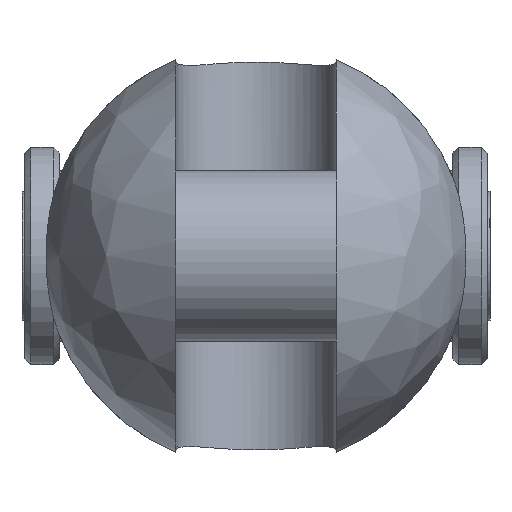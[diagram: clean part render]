
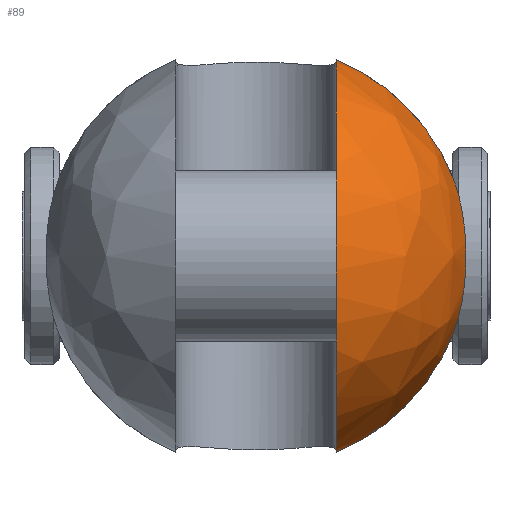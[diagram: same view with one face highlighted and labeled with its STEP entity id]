
A CAD part, left-side view. The second image highlights one B-rep face of the part: STEP entity #89.
In plain terms, the highlighted free-form (B-spline) face has degree [2, 2] with [9, 5] control points.
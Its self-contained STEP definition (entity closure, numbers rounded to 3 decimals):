
#89=ADVANCED_FACE('',(#164),#1306,.T.);
#164=FACE_OUTER_BOUND('',#249,.T.);
#249=EDGE_LOOP('',(#583,#584,#585,#586));
#583=ORIENTED_EDGE('',*,*,#811,.T.);
#584=ORIENTED_EDGE('',*,*,#833,.F.);
#585=ORIENTED_EDGE('',*,*,#851,.T.);
#586=ORIENTED_EDGE('',*,*,#827,.F.);
#811=EDGE_CURVE('',#1192,#1191,#1045,.T.);
#827=EDGE_CURVE('',#1192,#1204,#1055,.T.);
#833=EDGE_CURVE('',#1211,#1191,#1056,.T.);
#851=EDGE_CURVE('',#1211,#1204,#962,.T.);
#962=B_SPLINE_CURVE_WITH_KNOTS('',3,(#3095,#3096,#3097,#3098,#3099,#3100,
#3101,#3102,#3103,#3104,#3105,#3106,#3107,#3108),.UNSPECIFIED.,.F.,.F.,
(4,2,2,2,2,2,4),(-15.072,-13.761,-10.649,
-7.536,-4.423,-1.311,0.),.UNSPECIFIED.);
#1045=(
BOUNDED_CURVE()
B_SPLINE_CURVE(2,(#2912,#2913,#2914,#2915,#2916),.UNSPECIFIED.,.F.,.F.)
B_SPLINE_CURVE_WITH_KNOTS((3,2,3),(-53.798,-26.899,
0.),.UNSPECIFIED.)
CURVE()
GEOMETRIC_REPRESENTATION_ITEM()
RATIONAL_B_SPLINE_CURVE((1.,0.707,1.,0.707,1.))
REPRESENTATION_ITEM('')
);
#1055=(
BOUNDED_CURVE()
B_SPLINE_CURVE(2,(#2990,#2991,#2992),.UNSPECIFIED.,.F.,.F.)
B_SPLINE_CURVE_WITH_KNOTS((3,3),(0.,14.917),.UNSPECIFIED.)
CURVE()
GEOMETRIC_REPRESENTATION_ITEM()
RATIONAL_B_SPLINE_CURVE((1.,0.92,1.))
REPRESENTATION_ITEM('')
);
#1056=(
BOUNDED_CURVE()
B_SPLINE_CURVE(2,(#3015,#3016,#3017),.UNSPECIFIED.,.F.,.F.)
B_SPLINE_CURVE_WITH_KNOTS((3,3),(0.,14.917),.UNSPECIFIED.)
CURVE()
GEOMETRIC_REPRESENTATION_ITEM()
RATIONAL_B_SPLINE_CURVE((1.,0.92,1.))
REPRESENTATION_ITEM('')
);
#1191=VERTEX_POINT('',#2837);
#1192=VERTEX_POINT('',#2838);
#1204=VERTEX_POINT('',#2850);
#1211=VERTEX_POINT('',#2857);
#1306=(
BOUNDED_SURFACE()
B_SPLINE_SURFACE(2,2,((#2445,#2446,#2447,#2448,#2449),(#2450,#2451,#2452,
#2453,#2454),(#2455,#2456,#2457,#2458,#2459),(#2460,#2461,#2462,#2463,#2464),
(#2465,#2466,#2467,#2468,#2469),(#2470,#2471,#2472,#2473,#2474),(#2475,
#2476,#2477,#2478,#2479),(#2480,#2481,#2482,#2483,#2484),(#2485,#2486,#2487,
#2488,#2489)),.UNSPECIFIED.,.T.,.F.,.F.)
B_SPLINE_SURFACE_WITH_KNOTS((3,2,2,2,3),(3,2,3),(0.,1.571,3.142,
4.712,6.283),(-1.571,0.,1.571),
 .UNSPECIFIED.)
GEOMETRIC_REPRESENTATION_ITEM()
RATIONAL_B_SPLINE_SURFACE(((1.,0.707,1.,0.707,1.),
(0.707,0.5,0.707,0.5,0.707),(1.,0.707,
1.,0.707,1.),(0.707,0.5,0.707,0.5,0.707),
(1.,0.707,1.,0.707,1.),(0.707,0.5,0.707,
0.5,0.707),(1.,0.707,1.,0.707,1.),(0.707,
0.5,0.707,0.5,0.707),(1.,0.707,1.,0.707,
1.)))
REPRESENTATION_ITEM('')
SURFACE()
);
#2445=CARTESIAN_POINT('',(-26.5,0.,0.));
#2446=CARTESIAN_POINT('',(-26.5,18.5,0.));
#2447=CARTESIAN_POINT('',(-8.,18.5,0.));
#2448=CARTESIAN_POINT('',(10.5,18.5,0.));
#2449=CARTESIAN_POINT('',(10.5,0.,0.));
#2450=CARTESIAN_POINT('',(-26.5,0.,0.));
#2451=CARTESIAN_POINT('',(-26.5,18.5,18.5));
#2452=CARTESIAN_POINT('',(-8.,18.5,18.5));
#2453=CARTESIAN_POINT('',(10.5,18.5,18.5));
#2454=CARTESIAN_POINT('',(10.5,0.,0.));
#2455=CARTESIAN_POINT('',(-26.5,0.,0.));
#2456=CARTESIAN_POINT('',(-26.5,0.,18.5));
#2457=CARTESIAN_POINT('',(-8.,0.,18.5));
#2458=CARTESIAN_POINT('',(10.5,0.,18.5));
#2459=CARTESIAN_POINT('',(10.5,0.,0.));
#2460=CARTESIAN_POINT('',(-26.5,0.,0.));
#2461=CARTESIAN_POINT('',(-26.5,-18.5,18.5));
#2462=CARTESIAN_POINT('',(-8.,-18.5,18.5));
#2463=CARTESIAN_POINT('',(10.5,-18.5,18.5));
#2464=CARTESIAN_POINT('',(10.5,0.,0.));
#2465=CARTESIAN_POINT('',(-26.5,0.,0.));
#2466=CARTESIAN_POINT('',(-26.5,-18.5,0.));
#2467=CARTESIAN_POINT('',(-8.,-18.5,0.));
#2468=CARTESIAN_POINT('',(10.5,-18.5,0.));
#2469=CARTESIAN_POINT('',(10.5,0.,0.));
#2470=CARTESIAN_POINT('',(-26.5,0.,0.));
#2471=CARTESIAN_POINT('',(-26.5,-18.5,-18.5));
#2472=CARTESIAN_POINT('',(-8.,-18.5,-18.5));
#2473=CARTESIAN_POINT('',(10.5,-18.5,-18.5));
#2474=CARTESIAN_POINT('',(10.5,0.,0.));
#2475=CARTESIAN_POINT('',(-26.5,0.,0.));
#2476=CARTESIAN_POINT('',(-26.5,0.,-18.5));
#2477=CARTESIAN_POINT('',(-8.,0.,-18.5));
#2478=CARTESIAN_POINT('',(10.5,0.,-18.5));
#2479=CARTESIAN_POINT('',(10.5,0.,0.));
#2480=CARTESIAN_POINT('',(-26.5,0.,0.));
#2481=CARTESIAN_POINT('',(-26.5,18.5,-18.5));
#2482=CARTESIAN_POINT('',(-8.,18.5,-18.5));
#2483=CARTESIAN_POINT('',(10.5,18.5,-18.5));
#2484=CARTESIAN_POINT('',(10.5,0.,0.));
#2485=CARTESIAN_POINT('',(-26.5,0.,0.));
#2486=CARTESIAN_POINT('',(-26.5,18.5,0.));
#2487=CARTESIAN_POINT('',(-8.,18.5,0.));
#2488=CARTESIAN_POINT('',(10.5,18.5,0.));
#2489=CARTESIAN_POINT('',(10.5,0.,0.));
#2837=CARTESIAN_POINT('',(-8.,-7.,-17.125));
#2838=CARTESIAN_POINT('',(-8.,-7.,17.125));
#2850=CARTESIAN_POINT('',(-8.,-17.205,6.801));
#2857=CARTESIAN_POINT('',(-8.,-17.205,-6.801));
#2912=CARTESIAN_POINT('',(-8.,-7.,17.125));
#2913=CARTESIAN_POINT('',(-25.125,-7.,17.125));
#2914=CARTESIAN_POINT('',(-25.125,-7.,0.));
#2915=CARTESIAN_POINT('',(-25.125,-7.,-17.125));
#2916=CARTESIAN_POINT('',(-8.,-7.,-17.125));
#2990=CARTESIAN_POINT('',(-8.,-7.,17.125));
#2991=CARTESIAN_POINT('',(-8.,-14.304,14.139));
#2992=CARTESIAN_POINT('',(-8.,-17.205,6.801));
#3015=CARTESIAN_POINT('',(-8.,-17.205,-6.801));
#3016=CARTESIAN_POINT('',(-8.,-14.304,-14.139));
#3017=CARTESIAN_POINT('',(-8.,-7.,-17.125));
#3095=CARTESIAN_POINT('',(-8.,-17.205,-6.801));
#3096=CARTESIAN_POINT('',(-8.27,-17.33,-6.483));
#3097=CARTESIAN_POINT('',(-8.519,-17.444,-6.152));
#3098=CARTESIAN_POINT('',(-9.272,-17.788,-5.019));
#3099=CARTESIAN_POINT('',(-9.737,-17.995,-4.068));
#3100=CARTESIAN_POINT('',(-10.351,-18.266,-2.052));
#3101=CARTESIAN_POINT('',(-10.5,-18.33,-0.988));
#3102=CARTESIAN_POINT('',(-10.5,-18.33,0.988));
#3103=CARTESIAN_POINT('',(-10.351,-18.266,2.052));
#3104=CARTESIAN_POINT('',(-9.737,-17.995,4.068));
#3105=CARTESIAN_POINT('',(-9.272,-17.788,5.019));
#3106=CARTESIAN_POINT('',(-8.519,-17.444,6.152));
#3107=CARTESIAN_POINT('',(-8.27,-17.33,6.483));
#3108=CARTESIAN_POINT('',(-8.,-17.205,6.801));
